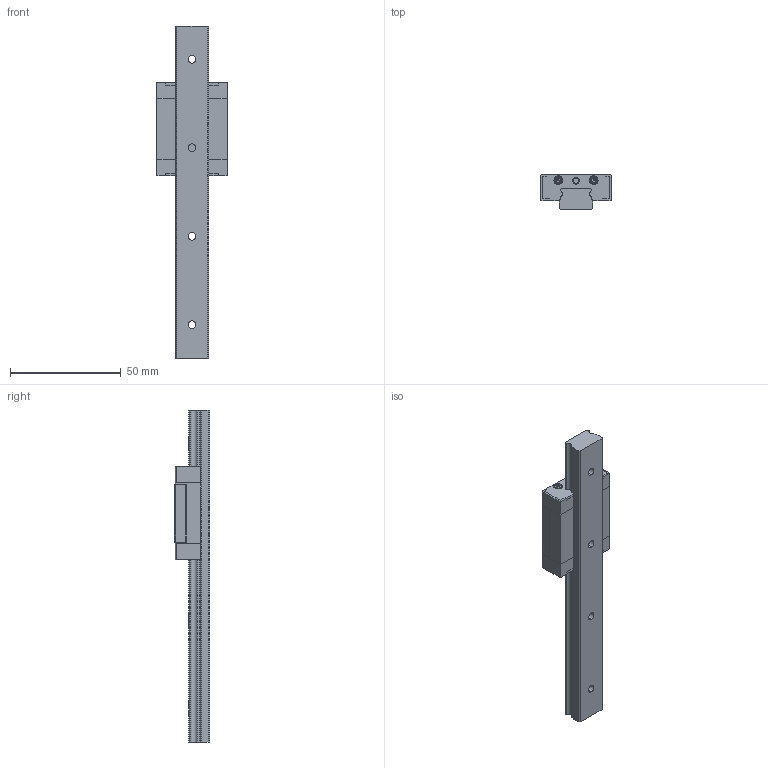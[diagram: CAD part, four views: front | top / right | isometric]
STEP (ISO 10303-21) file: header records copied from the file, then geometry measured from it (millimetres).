
FILE_DESCRIPTION (( 'STEP AP214' ), '1' );
FILE_NAME ('FBXX15NS-SS.STEP', '2022-08-06T22:21:51', ( 'JST' ), ( 'JST' ), 'SwSTEP 2.0', 'SolidWorks 2016', '' );
FILE_SCHEMA (( 'AUTOMOTIVE_DESIGN' ));
Length unit declared in the file: millimetre
Products named in the file (7): 15N絳寢; M2.0蹟佪; FBXX15NS-SS; 15NS傷裔; 15NS賑輸; 15NS-SS滅鳥え; 15NS悜遠釱
Assembly tree (11 placements, depth 2):
  FBXX15NS-SS
    15N絳寢
    15NS-SS滅鳥え  x2
    15NS傷裔  x2
    15NS賑輸
    15NS悜遠釱
    M2.0蹟佪  x4
Bounding box: 32 x 16 x 150 mm (x, y, z)
Volume: 31694.4 mm3; surface area: 18440.8 mm2
Topology: 11 solids, 11 shells, 560 faces, 1532 edges, 1004 vertices
Faces by surface type: cylinder 273, plane 235, cone 32, bspline 12, torus 8
Entity records: 12743 total; most frequent: CARTESIAN_POINT 5003, ORIENTED_EDGE 1526, DIRECTION 1445, EDGE_CURVE 763, VERTEX_POINT 500, VECTOR 495, LINE 495, AXIS2_PLACEMENT_3D 475
